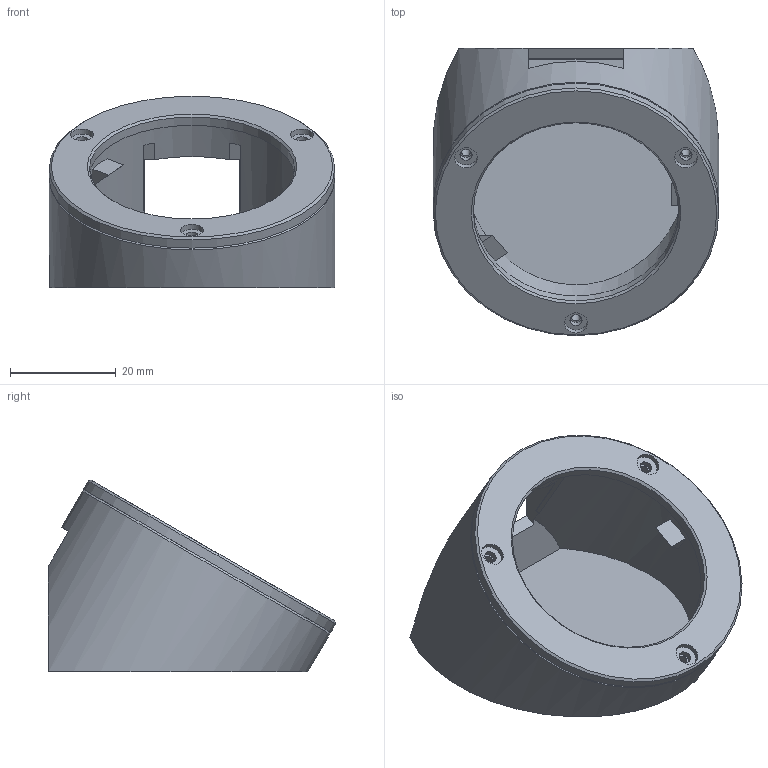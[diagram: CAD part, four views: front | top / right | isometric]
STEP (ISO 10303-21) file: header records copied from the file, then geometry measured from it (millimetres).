
FILE_DESCRIPTION(('Open CASCADE Model'),'2;1');
FILE_NAME('Open CASCADE Shape Model','2026-11-04T17:11:09',('Author'),( 'Open CASCADE'),'Open CASCADE STEP processor 7.9','Open CASCADE 7.9' ,'Unknown');
FILE_SCHEMA(('AUTOMOTIVE_DESIGN { 1 0 10303 214 1 1 1 1 }'));
Length unit declared in the file: millimetre
Products named in the file (3): Dotty-Buried-Puck; body; bezel
Assembly tree (2 placements, depth 2):
  Dotty-Buried-Puck
    body
    bezel
Bounding box: 54 x 54.28 x 36.21 mm (x, y, z)
Volume: 21420.8 mm3; surface area: 14151.4 mm2
Topology: 2 solids, 2 shells, 53 faces, 123 edges, 81 vertices
Faces by surface type: plane 37, cylinder 13, cone 3
Full cylindrical faces by diameter (mm): 1.7 x3, 2.3 x3, 4.4 x3, 38.8 x1, 44 x1, 54 x2
Entity records: 3363 total; most frequent: CARTESIAN_POINT 868, DIRECTION 446, ORIENTED_EDGE 246, PCURVE 246, DEFINITIONAL_REPRESENTATION 246, LINE 206, VECTOR 206, EDGE_CURVE 123
